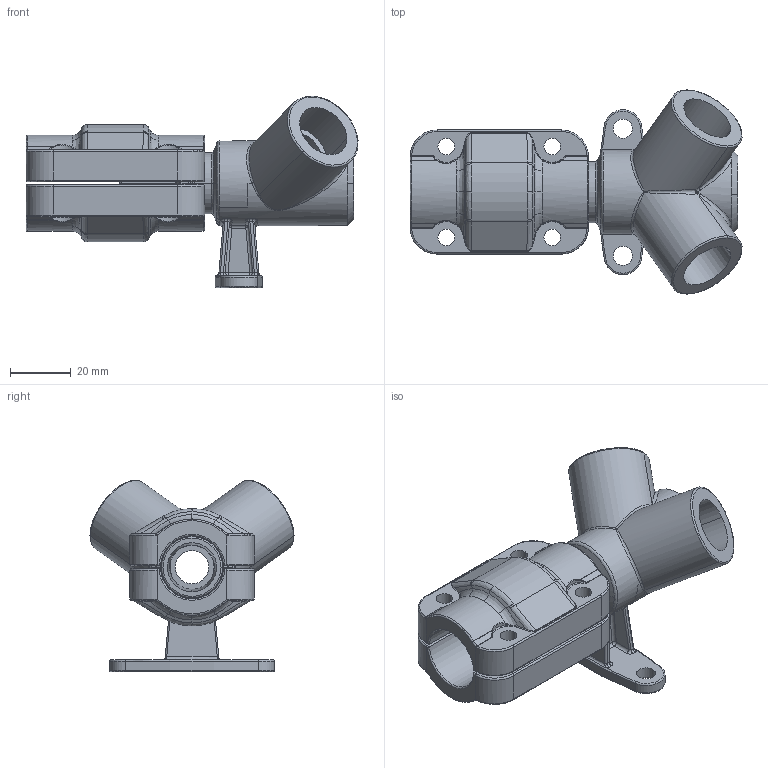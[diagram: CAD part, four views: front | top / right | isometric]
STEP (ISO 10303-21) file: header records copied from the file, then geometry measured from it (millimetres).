
FILE_DESCRIPTION(/* description */ (''),/* implementation_level */ '2;1');
FILE_NAME(/* name */ '1023.stp',/* time_stamp */ '2022-05-10T09:27:18+08:00',/* author */ (''),/* organization */ (''),/* preprocessor_version */ 'ST-DEVELOPER v11',/* originating_system */ 'SIEMENS PLM Software NX 7.5',/* authorisation */ '');
FILE_SCHEMA (('CONFIG_CONTROL_DESIGN'));
Length unit declared in the file: millimetre
Products named in the file (1): AdmiE323n7eo
Bounding box: 109.72 x 67.46 x 63.22 mm (x, y, z)
Volume: 84465.3 mm3; surface area: 35026.8 mm2
Topology: 3 solids, 3 shells, 538 faces, 1274 edges, 743 vertices
Faces by surface type: bspline 194, cylinder 164, plane 78, torus 65, cone 27, sphere 10
Full cylindrical faces by diameter (mm): 6.3 x2, 11 x1
Entity records: 23079 total; most frequent: CARTESIAN_POINT 12018, ORIENTED_EDGE 2540, DIRECTION 2003, EDGE_CURVE 1270, AXIS2_PLACEMENT_3D 825, VERTEX_POINT 747, EDGE_LOOP 573, ADVANCED_FACE 538
